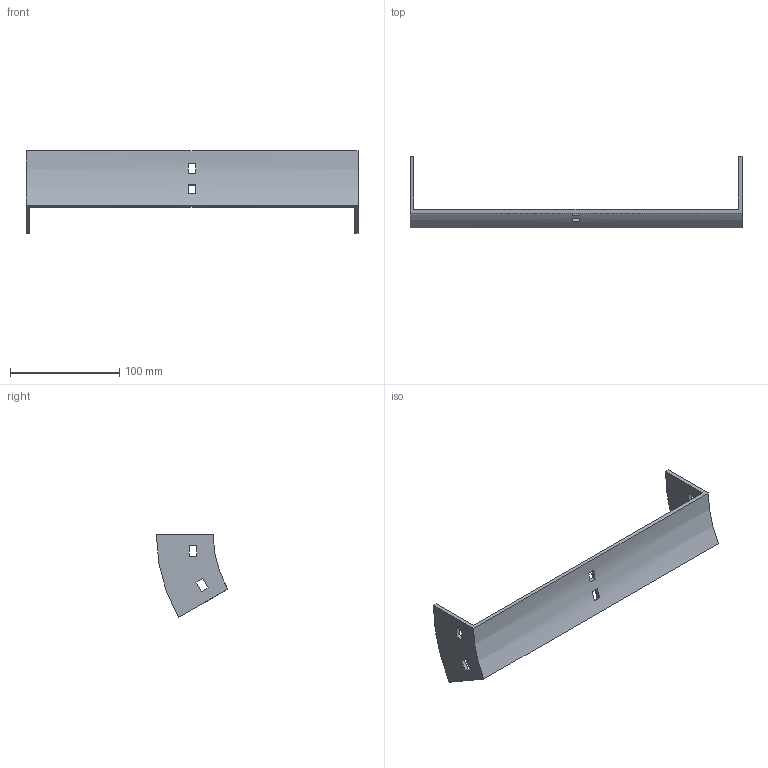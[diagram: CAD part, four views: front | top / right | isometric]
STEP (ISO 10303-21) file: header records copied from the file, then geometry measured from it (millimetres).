
FILE_DESCRIPTION (( 'STEP AP214' ), '1' );
FILE_NAME ('35B1B300.step', '2025-02-21T09:25:29', ( '' ), ( '' ), 'SwSTEP 2.0', 'SolidWorks 2023', '' );
FILE_SCHEMA (( 'AUTOMOTIVE_DESIGN' ));
Length unit declared in the file: millimetre
Products named in the file (1): 35B1B300
Bounding box: 304 x 65.4 x 76 mm (x, y, z)
Volume: 77999.8 mm3; surface area: 48625.1 mm2
Topology: 1 solids, 1 shells, 34 faces, 96 edges, 64 vertices
Faces by surface type: plane 30, cylinder 4
Entity records: 1143 total; most frequent: CARTESIAN_POINT 195, ORIENTED_EDGE 192, DIRECTION 182, EDGE_CURVE 96, LINE 80, VECTOR 80, VERTEX_POINT 64, AXIS2_PLACEMENT_3D 51
